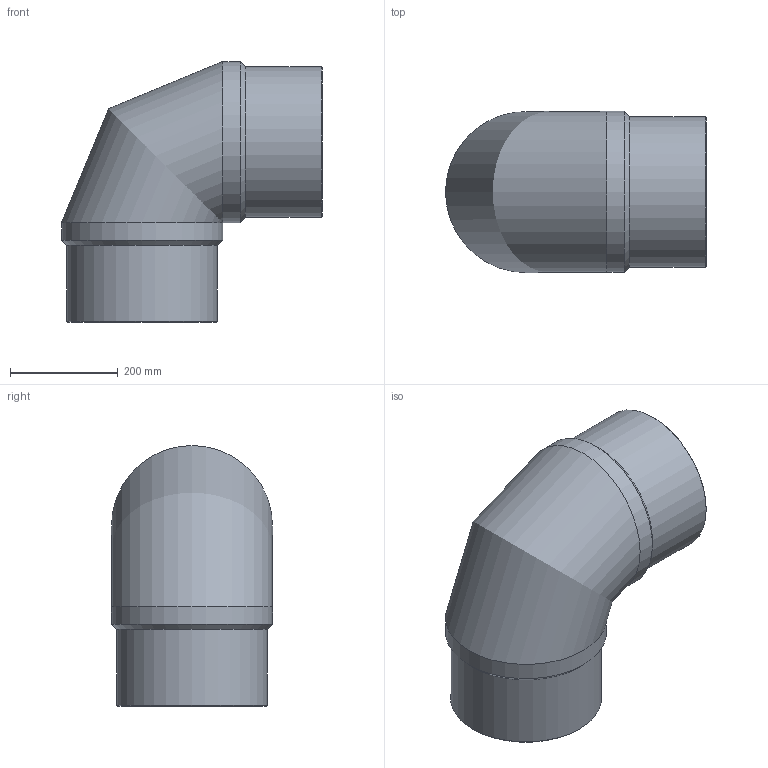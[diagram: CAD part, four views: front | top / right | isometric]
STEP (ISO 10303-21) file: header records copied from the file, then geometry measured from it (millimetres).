
FILE_DESCRIPTION(/* description */ ('Unknown'),/* implementation_level */ '2;1');
FILE_NAME(/* name */ 'G9P280C',/* time_stamp */ '2021-11-25T10:23:16+01:00',/* author */ ('Unknown'),/* organization */ ('Unknown'),/* preprocessor_version */ 'ST-DEVELOPER v16.7',/* originating_system */ 'Solid Edge',/* authorisation */ 'Unknown');
FILE_SCHEMA (('AUTOMOTIVE_DESIGN {1 0 10303 214 3 1 1}'));
Length unit declared in the file: millimetre
Products named in the file (1): G9P280C
Bounding box: 484.5 x 299 x 484.5 mm (x, y, z)
Volume: 15184041.1 mm3; surface area: 1035250.1 mm2
Topology: 1 solids, 1 shells, 14 faces, 34 edges, 22 vertices
Faces by surface type: cylinder 6, cone 4, plane 2, torus 2
Full cylindrical faces by diameter (mm): 229.2 x2, 280 x2, 299 x2
Entity records: 380 total; most frequent: CARTESIAN_POINT 80, DIRECTION 60, ORIENTED_EDGE 38, AXIS2_PLACEMENT_3D 30, EDGE_LOOP 27, FACE_BOUND 27, EDGE_CURVE 19, VERTEX_POINT 18
